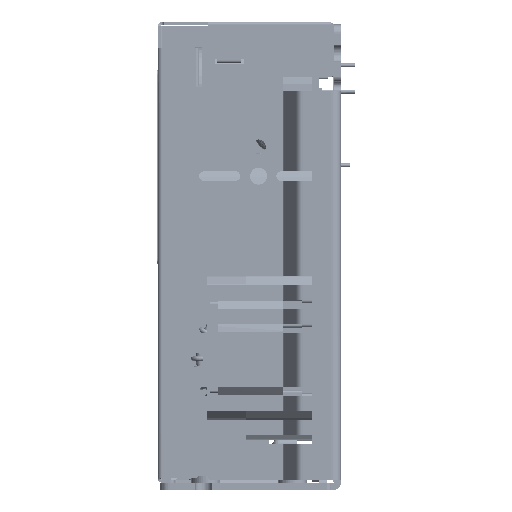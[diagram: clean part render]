
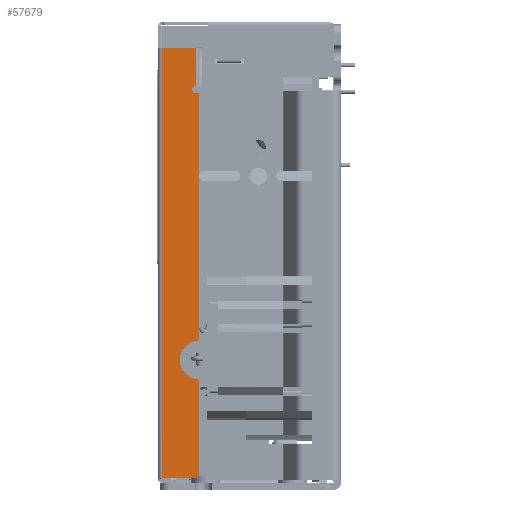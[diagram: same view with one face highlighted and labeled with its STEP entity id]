
A CAD part, left-side view. The second image highlights one B-rep face of the part: STEP entity #57679.
In plain terms, the highlighted planar face has unit normal (-1, 0, 0) as drawn and (0, 1, 0) by its records, which use the part's own axes.
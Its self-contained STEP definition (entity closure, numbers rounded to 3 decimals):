
#27698=DIRECTION('',(1.,0.,0.));
#27699=VECTOR('',#27698,89.3);
#27700=CARTESIAN_POINT('',(0.3,154.2,0.9));
#27701=LINE('',#27700,#27699);
#27796=CARTESIAN_POINT('',(80.85,154.2,7.9));
#27797=DIRECTION('',(0.,1.,0.));
#27798=DIRECTION('',(1.,0.,0.));
#27799=AXIS2_PLACEMENT_3D('',#27796,#27797,#27798);
#27801=DIRECTION('',(0.,0.,-1.));
#27802=VECTOR('',#27801,0.7);
#27803=CARTESIAN_POINT('',(80.1,154.2,8.6));
#27804=LINE('',#27803,#27802);
#27805=DIRECTION('',(-1.,0.,0.));
#27806=VECTOR('',#27805,50.778);
#27807=CARTESIAN_POINT('',(80.1,154.2,8.6));
#27808=LINE('',#27807,#27806);
#27809=CARTESIAN_POINT('',(29.322,154.2,8.1));
#27810=DIRECTION('',(0.,1.,0.));
#27811=DIRECTION('',(-0.994,0.,0.111));
#27812=AXIS2_PLACEMENT_3D('',#27809,#27810,#27811);
#27814=CARTESIAN_POINT('',(24.85,154.2,8.6));
#27815=DIRECTION('',(0.,1.,0.));
#27816=DIRECTION('',(0.994,0.,-0.111));
#27817=AXIS2_PLACEMENT_3D('',#27814,#27815,#27816);
#27819=CARTESIAN_POINT('',(20.378,154.2,8.1));
#27820=DIRECTION('',(0.,1.,0.));
#27821=DIRECTION('',(0.,0.,1.));
#27822=AXIS2_PLACEMENT_3D('',#27819,#27820,#27821);
#27824=DIRECTION('',(-1.,0.,0.));
#27825=VECTOR('',#27824,19.078);
#27826=CARTESIAN_POINT('',(20.378,154.2,8.6));
#27827=LINE('',#27826,#27825);
#27828=CARTESIAN_POINT('',(1.3,154.2,7.6));
#27829=DIRECTION('',(0.,1.,0.));
#27830=DIRECTION('',(-1.,0.,0.));
#27831=AXIS2_PLACEMENT_3D('',#27828,#27829,#27830);
#27833=DIRECTION('',(0.,0.,-1.));
#27834=VECTOR('',#27833,6.7);
#27835=CARTESIAN_POINT('',(0.3,154.2,7.6));
#27836=LINE('',#27835,#27834);
#27837=DIRECTION('',(0.,0.,-1.));
#27838=VECTOR('',#27837,7.);
#27839=CARTESIAN_POINT('',(89.6,154.2,7.9));
#27840=LINE('',#27839,#27838);
#27886=DIRECTION('',(-1.,0.,0.));
#27887=VECTOR('',#27886,8.);
#27888=CARTESIAN_POINT('',(89.6,154.2,7.9));
#27889=LINE('',#27888,#27887);
#38519=CARTESIAN_POINT('',(0.3,154.2,0.9));
#38520=VERTEX_POINT('',#38519);
#38683=CARTESIAN_POINT('',(89.6,154.2,0.9));
#38685=VERTEX_POINT('',#38683);
#38711=CARTESIAN_POINT('',(89.6,154.2,7.9));
#38712=VERTEX_POINT('',#38711);
#38969=CARTESIAN_POINT('',(0.3,154.2,7.6));
#38970=CARTESIAN_POINT('',(1.3,154.2,8.6));
#38971=VERTEX_POINT('',#38969);
#38972=VERTEX_POINT('',#38970);
#39005=CARTESIAN_POINT('',(20.378,154.2,8.6));
#39006=CARTESIAN_POINT('',(20.875,154.2,8.156));
#39007=VERTEX_POINT('',#39005);
#39008=VERTEX_POINT('',#39006);
#39013=CARTESIAN_POINT('',(28.825,154.2,8.156));
#39014=CARTESIAN_POINT('',(29.322,154.2,8.6));
#39015=VERTEX_POINT('',#39013);
#39016=VERTEX_POINT('',#39014);
#39129=CARTESIAN_POINT('',(81.6,154.2,7.9));
#39130=CARTESIAN_POINT('',(80.1,154.2,7.9));
#39131=VERTEX_POINT('',#39129);
#39132=VERTEX_POINT('',#39130);
#39133=CARTESIAN_POINT('',(80.1,154.2,8.6));
#39134=VERTEX_POINT('',#39133);
#57650=CARTESIAN_POINT('',(71.666,154.2,0.6));
#57651=DIRECTION('',(0.,-1.,0.));
#57652=DIRECTION('',(-1.,0.,0.));
#57653=AXIS2_PLACEMENT_3D('',#57650,#57651,#57652);
#57654=PLANE('',#57653);
#57655=ORIENTED_EDGE('',*,*,#57640,.T.);
#57657=ORIENTED_EDGE('',*,*,#57656,.F.);
#57659=ORIENTED_EDGE('',*,*,#57658,.T.);
#57661=ORIENTED_EDGE('',*,*,#57660,.F.);
#57663=ORIENTED_EDGE('',*,*,#57662,.T.);
#57665=ORIENTED_EDGE('',*,*,#57664,.F.);
#57667=ORIENTED_EDGE('',*,*,#57666,.T.);
#57669=ORIENTED_EDGE('',*,*,#57668,.F.);
#57671=ORIENTED_EDGE('',*,*,#57670,.T.);
#57672=ORIENTED_EDGE('',*,*,#57553,.T.);
#57674=ORIENTED_EDGE('',*,*,#57673,.F.);
#57676=ORIENTED_EDGE('',*,*,#57675,.T.);
#57677=EDGE_LOOP('',(#57655,#57657,#57659,#57661,#57663,#57665,#57667,#57669,
#57671,#57672,#57674,#57676));
#57678=FACE_OUTER_BOUND('',#57677,.F.);
#27800=CIRCLE('',#27799,0.75);
#27813=CIRCLE('',#27812,0.5);
#27818=CIRCLE('',#27817,4.);
#27823=CIRCLE('',#27822,0.5);
#27832=CIRCLE('',#27831,1.);
#57553=EDGE_CURVE('',#38520,#38685,#27701,.T.);
#57640=EDGE_CURVE('',#39131,#39132,#27800,.T.);
#57656=EDGE_CURVE('',#39134,#39132,#27804,.T.);
#57658=EDGE_CURVE('',#39134,#39016,#27808,.T.);
#57660=EDGE_CURVE('',#39015,#39016,#27813,.T.);
#57662=EDGE_CURVE('',#39015,#39008,#27818,.T.);
#57664=EDGE_CURVE('',#39007,#39008,#27823,.T.);
#57666=EDGE_CURVE('',#39007,#38972,#27827,.T.);
#57668=EDGE_CURVE('',#38971,#38972,#27832,.T.);
#57670=EDGE_CURVE('',#38971,#38520,#27836,.T.);
#57673=EDGE_CURVE('',#38712,#38685,#27840,.T.);
#57675=EDGE_CURVE('',#38712,#39131,#27889,.T.);
#57679=ADVANCED_FACE('',(#57678),#57654,.F.);
